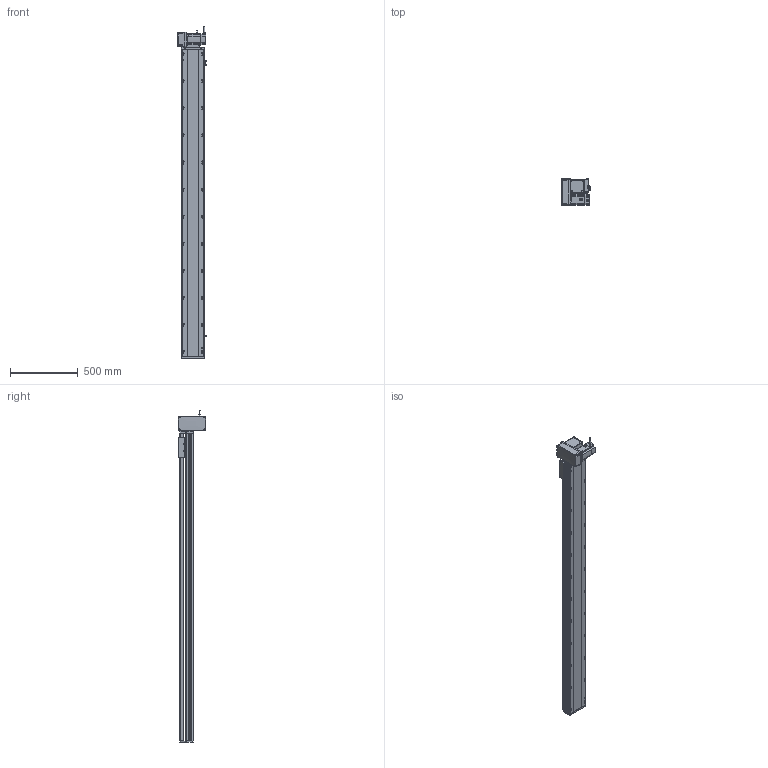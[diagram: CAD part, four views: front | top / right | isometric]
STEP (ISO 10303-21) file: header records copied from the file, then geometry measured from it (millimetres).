
FILE_DESCRIPTION (( 'STEP AP214' ), '1' );
FILE_NAME ('RTB17S-XX-2000-LM-M75-C4.STEP', '2025-12-12T00:44:15', ( '' ), ( '' ), 'SwSTEP 2.0', 'SolidWorks 2018', '' );
FILE_SCHEMA (( 'AUTOMOTIVE_DESIGN' ));
Length unit declared in the file: millimetre
Products named in the file (15): RTB22S-GY-017P^RTB17S-LM-々湍釱蚾饜-750W_RTB17S-XX-XX-LM-M75-C4; RTB17S-L-014-T20-P75--々湍釱^RTB17S-LM-々湍釱蚾饜-750W_RTB17S-XX-XX-LM-M75-C4; RTB17S-LM-々湍釱蚾饜-750W^RTB17S-XX-XX-LM-M75-C4; RTB17S-賑釱^RTB17S-XX-XX-LM-M75-C4; RTB22S-GY-008-M75--萇儂啣^RTB17S-LM-々湍釱蚾饜-750W_RTB17S-XX-XX-LM-M75-C4; EE672^RTB17S-XX-XX-LM-M75-C4; RTB22S-GY-005P^RTB17S-LM-々湍釱蚾饜-750W_RTB17S-XX-XX-LM-M75-C4; RTB17S-L-001-耜醱啣^RTB17S-XX-XX-LM-M75-C4; RTB17S-L-004-賑釱^RTB17S-賑釱_RTB17S-XX-XX-LM-M75-C4; RTH13-BL-012覜茼え俋离^RTB17S-賑釱_RTB17S-XX-XX-LM-M75-C4; RTB17-R-011菁釱^RTB17S-XX-XX-LM-M75-C4; 750W萇儂^RTB17S-XX-XX-LM-M75-C4; RTB22S-GY-018P^RTB17S-LM-々湍釱蚾饜-750W_RTB17S-XX-XX-LM-M75-C4; RTB17S-L-007奻裔^RTB17S-XX-XX-LM-M75-C4; RTB17S-XX-2000-LM-M75-C4
Assembly tree (17 placements, depth 3):
  RTB17S-XX-2000-LM-M75-C4
    RTB17-R-011菁釱^RTB17S-XX-XX-LM-M75-C4
    EE672^RTB17S-XX-XX-LM-M75-C4  x3
    RTB17S-L-001-耜醱啣^RTB17S-XX-XX-LM-M75-C4
    RTB17S-賑釱^RTB17S-XX-XX-LM-M75-C4
      RTB17S-L-004-賑釱^RTB17S-賑釱_RTB17S-XX-XX-LM-M75-C4
      RTH13-BL-012覜茼え俋离^RTB17S-賑釱_RTB17S-XX-XX-LM-M75-C4
    RTB17S-L-007奻裔^RTB17S-XX-XX-LM-M75-C4
    750W萇儂^RTB17S-XX-XX-LM-M75-C4
    RTB17S-LM-々湍釱蚾饜-750W^RTB17S-XX-XX-LM-M75-C4
      RTB17S-L-014-T20-P75--々湍釱^RTB17S-LM-々湍釱蚾饜-750W_RTB17S-XX-XX-LM-M75-C4
      RTB22S-GY-005P^RTB17S-LM-々湍釱蚾饜-750W_RTB17S-XX-XX-LM-M75-C4
      RTB22S-GY-017P^RTB17S-LM-々湍釱蚾饜-750W_RTB17S-XX-XX-LM-M75-C4  x2
      RTB22S-GY-008-M75--萇儂啣^RTB17S-LM-々湍釱蚾饜-750W_RTB17S-XX-XX-LM-M75-C4
      RTB22S-GY-018P^RTB17S-LM-々湍釱蚾饜-750W_RTB17S-XX-XX-LM-M75-C4
Bounding box: 210.4 x 200 x 2452.2 mm (x, y, z)
Volume: 18454919 mm3; surface area: 3298349 mm2
Topology: 17 solids, 17 shells, 2169 faces, 6052 edges, 3914 vertices
Faces by surface type: plane 980, cylinder 773, bspline 294, cone 110, sphere 8, torus 4
Entity records: 61942 total; most frequent: CARTESIAN_POINT 18316, ORIENTED_EDGE 8948, DIRECTION 8312, EDGE_CURVE 4474, AXIS2_PLACEMENT_3D 2934, VERTEX_POINT 2918, VECTOR 2444, LINE 2444
